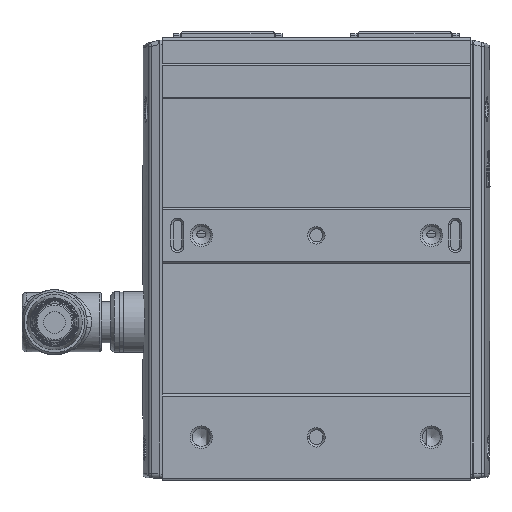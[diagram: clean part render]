
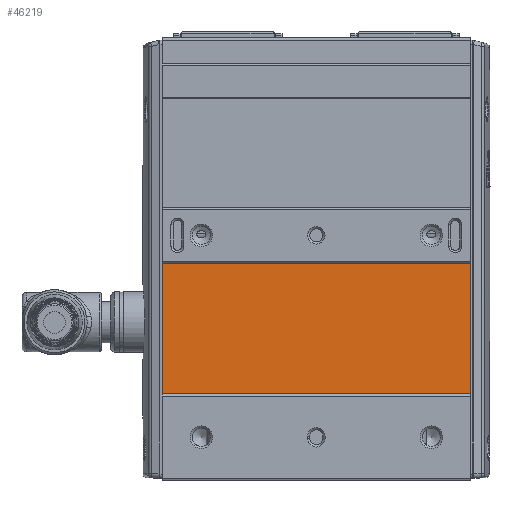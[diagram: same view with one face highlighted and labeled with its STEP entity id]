
A CAD part, left-side view. The second image highlights one B-rep face of the part: STEP entity #46219.
In plain terms, the highlighted planar face has unit normal (-1, 0, 0).
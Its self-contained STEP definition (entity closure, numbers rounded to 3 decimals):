
#3656=PLANE('',#49207);
#5537=FACE_OUTER_BOUND('',#8108,.T.);
#8108=EDGE_LOOP('',(#32827,#32828,#32829,#32830));
#10934=LINE('',#69133,#14510);
#10961=LINE('',#69221,#14537);
#10962=LINE('',#69223,#14538);
#10963=LINE('',#69224,#14539);
#14510=VECTOR('',#54776,1000.);
#14537=VECTOR('',#54847,1000.);
#14538=VECTOR('',#54848,1000.);
#14539=VECTOR('',#54849,1000.);
#21021=VERTEX_POINT('',#69130);
#21022=VERTEX_POINT('',#69132);
#21061=VERTEX_POINT('',#69220);
#21062=VERTEX_POINT('',#69222);
#25637=EDGE_CURVE('',#21022,#21021,#10934,.T.);
#25681=EDGE_CURVE('',#21061,#21021,#10961,.T.);
#25682=EDGE_CURVE('',#21062,#21061,#10962,.T.);
#25683=EDGE_CURVE('',#21062,#21022,#10963,.T.);
#32827=ORIENTED_EDGE('',*,*,#25681,.F.);
#32828=ORIENTED_EDGE('',*,*,#25682,.F.);
#32829=ORIENTED_EDGE('',*,*,#25683,.T.);
#32830=ORIENTED_EDGE('',*,*,#25637,.T.);
#46219=ADVANCED_FACE('',(#5537),#3656,.F.);
#49207=AXIS2_PLACEMENT_3D('',#69219,#54845,#54846);
#54776=DIRECTION('',(0.,0.,-1.));
#54845=DIRECTION('center_axis',(1.,0.,0.));
#54846=DIRECTION('ref_axis',(0.,0.,1.));
#54847=DIRECTION('',(0.,1.,0.));
#54848=DIRECTION('',(0.,0.,-1.));
#54849=DIRECTION('',(0.,1.,0.));
#69130=CARTESIAN_POINT('',(-17.5,35.5,-38.));
#69132=CARTESIAN_POINT('',(-17.5,35.5,-8.));
#69133=CARTESIAN_POINT('',(-17.5,35.5,44.));
#69219=CARTESIAN_POINT('Origin',(-17.5,-35.5,44.));
#69220=CARTESIAN_POINT('',(-17.5,-35.5,-38.));
#69221=CARTESIAN_POINT('',(-17.5,-55.506,-38.));
#69222=CARTESIAN_POINT('',(-17.5,-35.5,-8.));
#69223=CARTESIAN_POINT('',(-17.5,-35.5,44.));
#69224=CARTESIAN_POINT('',(-17.5,-55.506,-8.));
